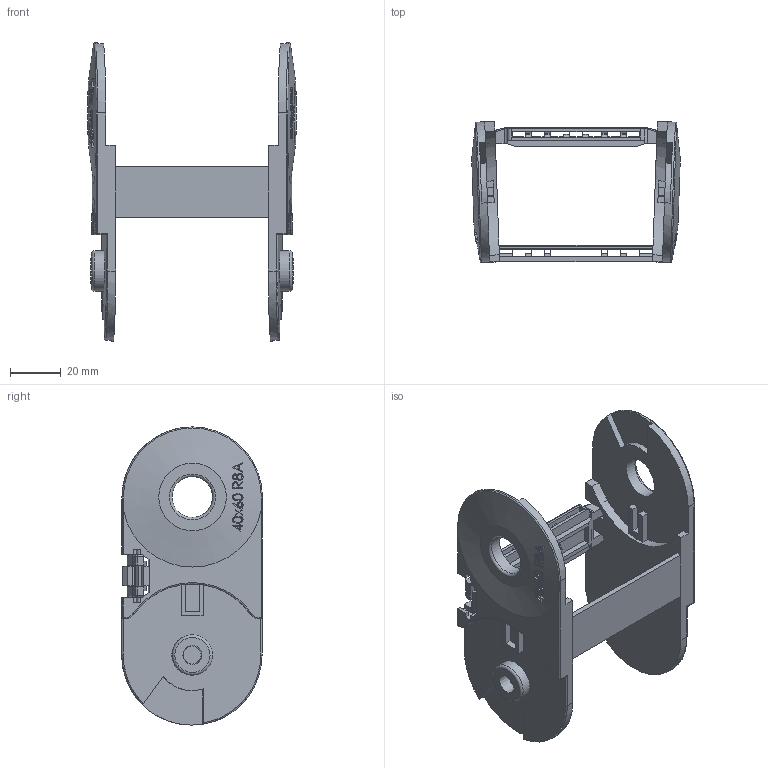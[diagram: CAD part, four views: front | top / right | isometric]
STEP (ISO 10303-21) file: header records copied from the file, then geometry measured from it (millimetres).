
FILE_DESCRIPTION((''),'2; 1');
FILE_NAME('','2026-03-26T10:13:47',(''),(''),'CST STEP Exporter V1.0','Unknown','');
FILE_SCHEMA(('CONFIG_CONTROL_DESIGN'));
Length unit declared in the file: metre
Assembly tree (6 placements, depth 2):
  (unnamed)
    (unnamed)
    (unnamed)
    (unnamed)
    (unnamed)
    (unnamed)
    (unnamed)
Bounding box: 81.83 x 55.21 x 117 mm (x, y, z)
Surface area: 74740.9 mm2 (no closed solid volume)
Topology: 0 solids, 6 shells, 581 faces, 2027 edges, 1407 vertices
Faces by surface type: plane 354, cylinder 125, extrusion 48, torus 28, cone 22, sphere 4
Full cylindrical faces by diameter (mm): 2.8 x4, 15.8 x2, 16 x2
Entity records: 27391 total; most frequent: CARTESIAN_POINT 6387, ORIENTED_EDGE 3415, DIRECTION 2914, EDGE_CURVE 2003, VERTEX_POINT 1399, VECTOR 1330, LINE 1282, AXIS2_PLACEMENT_3D 792
